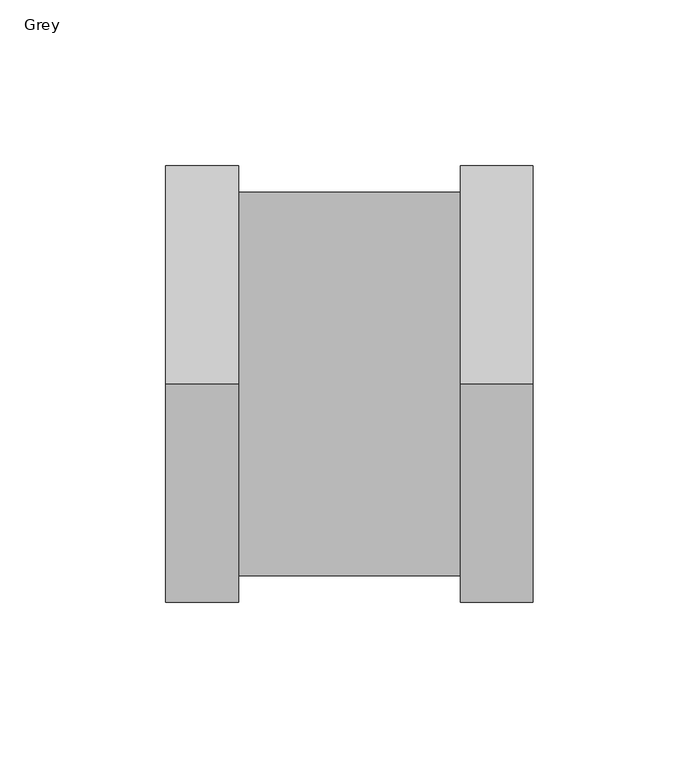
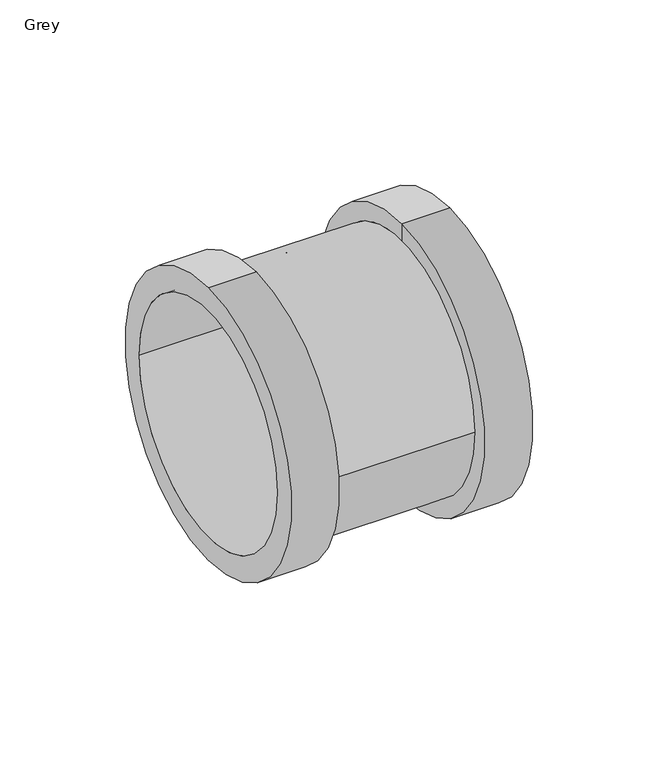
"""IFC4 building model written with IfcOpenShell, lengths in millimetres: pipe fitting geometry, Wavin_PipeFitting_S&WSPvcSDoubleSocket : Grey."""

from ifc_helpers import new_model, si_unit, frame, origin, place, context, project, spatial, polyline, circle_curve, source, transform, mapped, element, save
from ifc_brep_helpers import plane_surface, cylinder_surface, revolved_surface, advanced_brep


def grey_730326c9(model_context):
    return source(origin(), model_context, "Body", "AdvancedBrep", [
        advanced_brep(
        [(-54.0, 0.0, 66.25), (-54.0, 0.0, -66.25), (-54.0, -55.0, 0.0), (-54.0, 55.0, 0.0), (0.0, -55.0, 0.0), (0.0, 55.0, 0.0), (0.0, 0.0, 0.0), (3.0, -55.0, 0.0), (3.0, 55.0, 0.0), (3.0, 0.0, 0.0), (57.0, -55.0, 0.0), (57.0, 55.0, 0.0), (57.0, 0.0, -66.25), (57.0, 0.0, 66.25), (-32.0, 57.9, 0.0), (35.0, 57.9, 0.0), (35.0, 0.0, -57.9), (35.0, -57.9, 0.0), (-32.0, -57.9, 0.0), (-32.0, 0.0, -57.9), (-32.0, 0.0, 57.9), (35.0, 0.0, 57.9), (-32.0, 0.0, -66.25), (-32.0, 0.0, 66.25), (35.0, 0.0, -66.25), (35.0, 0.0, 66.25)],
        [
            (0, 1, circle_curve(frame((-54.0, 0.0, 0.0), z_axis=(-1.0, 0.0, 0.0), x_axis=(0.0, 0.0, 1.0)), 66.25)),
            (1, 0, circle_curve(frame((-54.0, 0.0, 0.0), z_axis=(-1.0, 0.0, 0.0), x_axis=(0.0, 0.0, 1.0)), 66.25)),
            (2, 3, circle_curve(frame((-54.0, 0.0, 0.0), z_axis=(1.0, 0.0, 0.0), x_axis=(0.0, 1.0, 0.0)), 55.0)),
            (3, 2, circle_curve(frame((-54.0, 0.0, 0.0), z_axis=(1.0, 0.0, 0.0), x_axis=(0.0, 1.0, 0.0)), 55.0)),
            (2, 4),
            (4, 5, circle_curve(frame((0.0, 0.0, 0.0), z_axis=(1.0, 0.0, 0.0), x_axis=(0.0, 1.0, 0.0)), 55.0)),
            (5, 3),
            (5, 4, circle_curve(frame((0.0, 0.0, 0.0), z_axis=(1.0, 0.0, 0.0), x_axis=(0.0, 1.0, 0.0)), 55.0)),
            (4, 6),
            (6, 5),
            (7, 8, circle_curve(frame((3.0, 0.0, 0.0), z_axis=(1.0, 0.0, 0.0), x_axis=(0.0, 1.0, 0.0)), 55.0)),
            (8, 9),
            (9, 7),
            (8, 7, circle_curve(frame((3.0, 0.0, 0.0), z_axis=(1.0, 0.0, 0.0), x_axis=(0.0, 1.0, 0.0)), 55.0)),
            (7, 10),
            (10, 11, circle_curve(frame((57.0, 0.0, 0.0), z_axis=(1.0, 0.0, 0.0), x_axis=(0.0, 1.0, 0.0)), 55.0)),
            (11, 8),
            (11, 10, circle_curve(frame((57.0, 0.0, 0.0), z_axis=(1.0, 0.0, 0.0), x_axis=(0.0, 1.0, 0.0)), 55.0)),
            (12, 13, circle_curve(frame((57.0, 0.0, 0.0), z_axis=(1.0, 0.0, 0.0), x_axis=(0.0, 0.0, 1.0)), 66.25)),
            (13, 12, circle_curve(frame((57.0, 0.0, 0.0), z_axis=(1.0, 0.0, 0.0), x_axis=(0.0, 0.0, 1.0)), 66.25)),
            (14, 15),
            (15, 16, circle_curve(frame((35.0, 0.0, 0.0), z_axis=(-1.0, 0.0, 0.0), x_axis=(0.0, 1.0, 0.0)), 57.9)),
            (16, 17, circle_curve(frame((35.0, 0.0, 0.0), z_axis=(-1.0, 0.0, 0.0), x_axis=(0.0, 1.0, 0.0)), 57.9)),
            (17, 18),
            (18, 19, circle_curve(frame((-32.0, 0.0, 0.0), z_axis=(1.0, 0.0, 0.0), x_axis=(0.0, 1.0, 0.0)), 57.9)),
            (19, 14, circle_curve(frame((-32.0, 0.0, 0.0), z_axis=(1.0, 0.0, 0.0), x_axis=(0.0, 1.0, 0.0)), 57.9)),
            (14, 20, circle_curve(frame((-32.0, 0.0, 0.0), z_axis=(1.0, 0.0, 0.0), x_axis=(0.0, 1.0, 0.0)), 57.9)),
            (20, 18, circle_curve(frame((-32.0, 0.0, 0.0), z_axis=(1.0, 0.0, 0.0), x_axis=(0.0, 1.0, 0.0)), 57.9)),
            (17, 21, circle_curve(frame((35.0, 0.0, 0.0), z_axis=(-1.0, 0.0, 0.0), x_axis=(0.0, 1.0, 0.0)), 57.9)),
            (21, 15, circle_curve(frame((35.0, 0.0, 0.0), z_axis=(-1.0, 0.0, 0.0), x_axis=(0.0, 1.0, 0.0)), 57.9)),
            (22, 23, circle_curve(frame((-32.0, 0.0, 0.0), z_axis=(1.0, 0.0, 0.0), x_axis=(0.0, 0.0, 1.0)), 66.25)),
            (23, 20),
            (19, 22),
            (23, 22, circle_curve(frame((-32.0, 0.0, 0.0), z_axis=(1.0, 0.0, 0.0), x_axis=(0.0, 0.0, 1.0)), 66.25)),
            (22, 1),
            (0, 23),
            (12, 24),
            (24, 25, circle_curve(frame((35.0, 0.0, 0.0), z_axis=(1.0, 0.0, 0.0), x_axis=(0.0, 0.0, 1.0)), 66.25)),
            (25, 13),
            (25, 24, circle_curve(frame((35.0, 0.0, 0.0), z_axis=(1.0, 0.0, 0.0), x_axis=(0.0, 0.0, 1.0)), 66.25)),
            (24, 16),
            (21, 25),
        ],
        [
            plane_surface(frame((-54.0, 0.0, 0.0), z_axis=(-1.0, 0.0, 0.0), x_axis=(0.0, 1.0, 0.0))),
            revolved_surface(polyline([(-54.0, 55.0, 0.0), (0.0, 55.0, 0.0)]), (1985.25, 0.0, 0.0), (-1.0, 0.0, 0.0)),
            plane_surface(frame((0.0, 0.0, 0.0), z_axis=(-1.0, 0.0, 0.0), x_axis=(0.0, 1.0, 0.0))),
            plane_surface(frame((3.0, 0.0, 0.0), z_axis=(1.0, 0.0, 0.0), x_axis=(0.0, 1.0, 0.0))),
            revolved_surface(polyline([(3.0, 55.0, 0.0), (57.0, 55.0, 0.0)]), (1985.25, 0.0, 0.0), (-1.0, 0.0, 0.0)),
            plane_surface(frame((57.0, 0.0, 0.0), z_axis=(1.0, 0.0, 0.0), x_axis=(0.0, 1.0, 0.0))),
            cylinder_surface(frame((1985.25, 0.0, 0.0), z_axis=(-1.0, 0.0, 0.0), x_axis=(0.0, 1.0, 0.0)), 57.9),
            plane_surface(frame((-32.0, 0.0, 0.0), z_axis=(1.0, 0.0, 0.0), x_axis=(0.0, 0.0, 1.0))),
            cylinder_surface(frame((-314.0, 0.0, 0.0), z_axis=(-1.0, 0.0, 0.0), x_axis=(0.0, 0.0, 1.0)), 66.25),
            plane_surface(frame((35.0, 0.0, 0.0), z_axis=(-1.0, 0.0, 0.0), x_axis=(0.0, 0.0, 1.0))),
        ],
        [
            (0, [[1, 2], [3, 4]]),
            (1, [[-3, 5, 6, 7]]),
            (1, [[-4, -7, 8, -5]]),
            (2, [[-6, 9, 10]]),
            (2, [[-8, -10, -9]]),
            (3, [[11, 12, 13]]),
            (3, [[-12, 14, -13]]),
            (4, [[-11, 15, 16, 17]]),
            (4, [[-14, -17, 18, -15]]),
            (5, [[19, 20], [-16, -18]]),
            (6, [[21, 22, 23, 24, 25, 26]]),
            (6, [[-21, 27, 28, -24, 29, 30]]),
            (7, [[31, 32, -27, -26, 33]]),
            (7, [[-32, 34, -33, -25, -28]]),
            (8, [[-31, 35, -1, 36]]),
            (8, [[-34, -36, -2, -35]]),
            (8, [[-19, 37, 38, 39]]),
            (8, [[-20, -39, 40, -37]]),
            (9, [[-38, 41, -22, -30, 42]]),
            (9, [[-40, -42, -29, -23, -41]]),
        ],
    ),
    ])


if __name__ == "__main__":
    model = new_model("IFC4")
    model_context = context("Model", 3, world=origin())
    ifc_project = project(units=[si_unit("LENGTHUNIT", "METRE", prefix="MILLI")], contexts=[model_context])
    site = spatial("IfcSite", under=ifc_project)
    building = spatial("IfcBuilding", under=site)
    placement = place(None, origin())
    grey_shape = grey_730326c9(model_context)
    element("IfcPipeFitting", 1, ObjectType="Wavin_PipeFitting_S&WSPvcSDoubleSocket : Grey", at=placement, inside=building, context=model_context, shape_type="MappedRepresentation", body=[
        mapped(grey_shape, transform((0.0, 0.0, 0.0), x_axis=(1.0, 0.0, 0.0), y_axis=(0.0, 1.0, 0.0), z_axis=(0.0, 0.0, 1.0))),
    ])
    save(model, "model.ifc")
